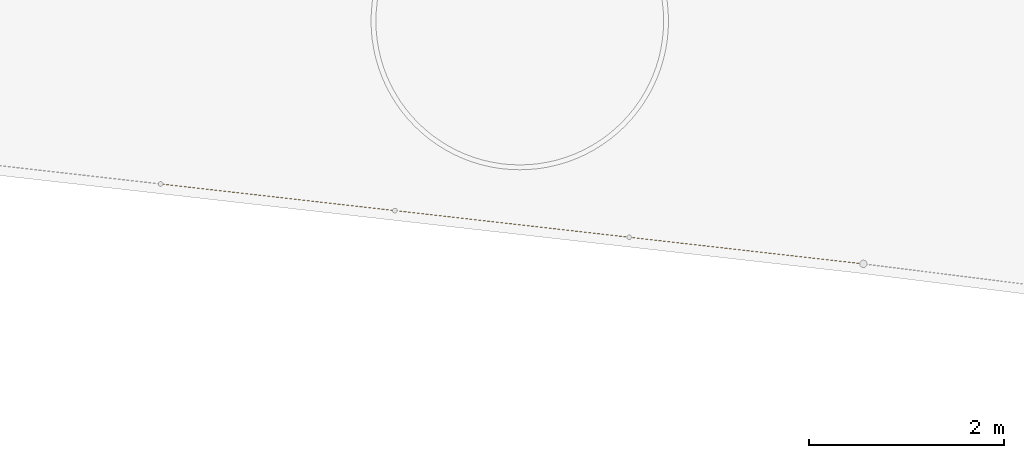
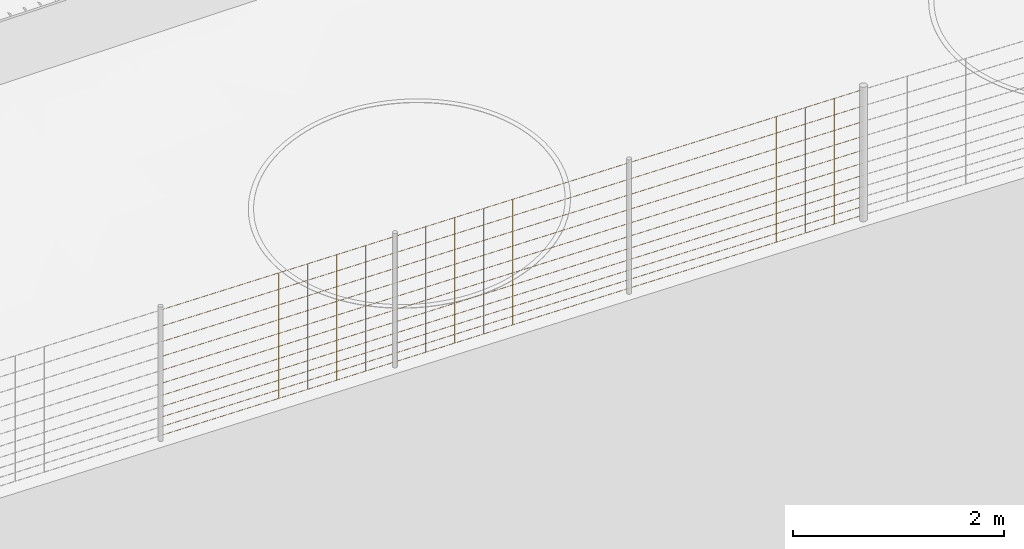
# Not in any storey, part 47 of 72: 3 railings.
"""IFC4 model written with IfcOpenShell, lengths in metres."""

from ifc_helpers import new_model, si_unit, direction, frame, origin_with_axes, place, context, subcontext, project, spatial, polygons, material, element, save


model = new_model("IFC4")

# Units and contexts
model_context = context("Model", 3, precision=1e-05, world=origin_with_axes(), true_north=direction((0.0, 1.0)))
body_context = subcontext(model_context, "Body", "Model", "MODEL_VIEW")
ifc_project = project(units=[si_unit("AREAUNIT", "SQUARE_METRE"), si_unit("VOLUMEUNIT", "CUBIC_METRE"), si_unit("LENGTHUNIT", "METRE")], contexts=[model_context])

# Site
site_placement = place(None, origin_with_axes())
site = spatial("IfcSite", under=ifc_project, at=site_placement, Name="Lares · Rua das Mercês · artigo 4771")

# Railings
ifc_material = material(Name="Aço galvanizado / Stahl verzinkt", Category="steel")
railing_1_placement = place(site_placement, frame((0.0, 0.0, 0.0), z_axis=(0.0, 0.0, 1.0), x_axis=(1.0, -1.03767253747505e-17, 0.0)))
element("IfcRailing", 1, at=railing_1_placement, inside=site, material=ifc_material, Name="Vedação · rede ovelheira 1.008", ObjectType="SHEEP_WIRE_FENCE", PredefinedType="USERDEFINED", context=body_context, shape_type="Tessellation", body=[
    polygons([(71.2952585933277, -5.02271708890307, 15.116837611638), (71.2951948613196, -5.02421950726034, 15.1153413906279), (71.2949196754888, -5.0256978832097, 15.116837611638), (71.2949834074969, -5.02419546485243, 15.118333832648), (68.893014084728, -4.74958065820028, 14.9448942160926), (68.8929503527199, -4.75108307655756, 14.9433979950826), (68.892675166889, -4.75256145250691, 14.9448942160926), (68.8927388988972, -4.75105903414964, 14.9463904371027), (71.2952585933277, -5.02271708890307, 15.216837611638), (71.2951948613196, -5.02421950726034, 15.2153413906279), (71.2949196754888, -5.0256978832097, 15.216837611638), (71.2949834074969, -5.02419546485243, 15.218333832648), (68.893014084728, -4.74958065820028, 15.0448942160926), (68.8929503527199, -4.75108307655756, 15.0433979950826), (68.892675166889, -4.75256145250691, 15.0448942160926), (68.8927388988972, -4.75105903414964, 15.0463904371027), (71.2952585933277, -5.02271708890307, 15.326837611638), (71.2951948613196, -5.02421950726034, 15.3253413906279), (71.2949196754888, -5.0256978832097, 15.326837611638), (71.2949834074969, -5.02419546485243, 15.328333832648), (68.893014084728, -4.74958065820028, 15.1548942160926), (68.8929503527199, -4.75108307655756, 15.1533979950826), (68.892675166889, -4.75256145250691, 15.1548942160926), (68.8927388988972, -4.75105903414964, 15.1563904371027), (71.2952585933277, -5.02271708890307, 15.446837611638), (71.2951948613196, -5.02421950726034, 15.4453413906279), (71.2949196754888, -5.0256978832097, 15.446837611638), (71.2949834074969, -5.02419546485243, 15.448333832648), (68.893014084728, -4.74958065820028, 15.2748942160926), (68.8929503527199, -4.75108307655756, 15.2733979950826), (68.892675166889, -4.75256145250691, 15.2748942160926), (68.8927388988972, -4.75105903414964, 15.2763904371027), (71.2952585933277, -5.02271708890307, 15.576837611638), (71.2951948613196, -5.02421950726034, 15.5753413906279), (71.2949196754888, -5.0256978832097, 15.576837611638), (71.2949834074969, -5.02419546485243, 15.578333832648), (68.893014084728, -4.74958065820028, 15.4048942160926), (68.8929503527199, -4.75108307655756, 15.4033979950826), (68.892675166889, -4.75256145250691, 15.4048942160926), (68.8927388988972, -4.75105903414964, 15.4063904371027), (71.2952585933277, -5.02271708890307, 15.716837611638), (71.2951948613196, -5.02421950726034, 15.7153413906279), (71.2949196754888, -5.0256978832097, 15.716837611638), (71.2949834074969, -5.02419546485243, 15.718333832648), (68.893014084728, -4.74958065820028, 15.5448942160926), (68.8929503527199, -4.75108307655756, 15.5433979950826), (68.892675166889, -4.75256145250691, 15.5448942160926), (68.8927388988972, -4.75105903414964, 15.5463904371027), (71.2952585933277, -5.02271708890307, 15.866837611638), (71.2951948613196, -5.02421950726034, 15.8653413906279), (71.2949196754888, -5.0256978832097, 15.866837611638), (71.2949834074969, -5.02419546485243, 15.868333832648), (68.893014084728, -4.74958065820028, 15.6948942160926), (68.8929503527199, -4.75108307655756, 15.6933979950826), (68.892675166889, -4.75256145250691, 15.6948942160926), (68.8927388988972, -4.75105903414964, 15.6963904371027), (71.2952585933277, -5.02271708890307, 16.026837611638), (71.2951948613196, -5.02421950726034, 16.0253413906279), (71.2949196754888, -5.0256978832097, 16.026837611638), (71.2949834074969, -5.02419546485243, 16.028333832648), (68.893014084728, -4.74958065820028, 15.8548942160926), (68.8929503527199, -4.75108307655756, 15.8533979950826), (68.892675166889, -4.75256145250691, 15.8548942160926), (68.8927388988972, -4.75105903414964, 15.8563904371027), (71.2952585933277, -5.02271708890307, 16.196837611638), (71.2951948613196, -5.02421950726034, 16.1953413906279), (71.2949196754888, -5.0256978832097, 16.196837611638), (71.2949834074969, -5.02419546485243, 16.198333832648), (68.893014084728, -4.74958065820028, 16.0248942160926), (68.8929503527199, -4.75108307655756, 16.0233979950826), (68.892675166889, -4.75256145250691, 16.0248942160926), (68.8927388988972, -4.75105903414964, 16.0263904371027), (71.2952585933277, -5.02271708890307, 16.376837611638), (71.2951948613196, -5.02421950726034, 16.3753413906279), (71.2949196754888, -5.0256978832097, 16.376837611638), (71.2949834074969, -5.02419546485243, 16.378333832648), (68.893014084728, -4.74958065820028, 16.2048942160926), (68.8929503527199, -4.75108307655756, 16.2033979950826), (68.892675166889, -4.75256145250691, 16.2048942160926), (68.8927388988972, -4.75105903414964, 16.2063904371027), (71.2952585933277, -5.02271708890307, 16.566837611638), (71.2951948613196, -5.02421950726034, 16.5653413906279), (71.2949196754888, -5.0256978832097, 16.566837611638), (71.2949834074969, -5.02419546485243, 16.568333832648), (68.893014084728, -4.74958065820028, 16.3948942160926), (68.8929503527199, -4.75108307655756, 16.3933979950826), (68.892675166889, -4.75256145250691, 16.3948942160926), (68.8927388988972, -4.75105903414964, 16.3963904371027), (70.9970097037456, -4.98881570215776, 15.0955022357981), (70.9955097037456, -4.99031570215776, 15.0955022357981), (70.9970097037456, -4.99181570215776, 15.0955022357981), (70.9985097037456, -4.99031570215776, 15.0955022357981), (70.9970097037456, -4.98881570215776, 16.5455022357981), (70.9955097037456, -4.99031570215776, 16.5455022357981), (70.9970097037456, -4.99181570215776, 16.5455022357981), (70.9985097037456, -4.99031570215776, 16.5455022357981), (70.698930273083, -4.95492391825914, 15.0741668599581), (70.697430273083, -4.95642391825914, 15.0741668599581), (70.698930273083, -4.95792391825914, 15.0741668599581), (70.700430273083, -4.95642391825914, 15.0741668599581), (70.698930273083, -4.95492391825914, 16.5241668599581), (70.697430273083, -4.95642391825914, 16.5241668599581), (70.698930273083, -4.95792391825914, 16.5241668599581), (70.700430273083, -4.95642391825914, 16.5241668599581), (70.4008508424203, -4.92103213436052, 15.0528314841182), (70.3993508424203, -4.92253213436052, 15.0528314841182), (70.4008508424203, -4.92403213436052, 15.0528314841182), (70.4023508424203, -4.92253213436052, 15.0528314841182), (70.4008508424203, -4.92103213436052, 16.5028314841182), (70.3993508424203, -4.92253213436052, 16.5028314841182), (70.4008508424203, -4.92403213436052, 16.5028314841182), (70.4023508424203, -4.92253213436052, 16.5028314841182), (70.1027714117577, -4.88714035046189, 15.0314961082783), (70.1012714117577, -4.88864035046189, 15.0314961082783), (70.1027714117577, -4.89014035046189, 15.0314961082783), (70.1042714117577, -4.88864035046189, 15.0314961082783), (70.1027714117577, -4.88714035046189, 16.4814961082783), (70.1012714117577, -4.88864035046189, 16.4814961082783), (70.1027714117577, -4.89014035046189, 16.4814961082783), (70.1042714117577, -4.88864035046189, 16.4814961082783), (69.804691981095, -4.85324856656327, 15.0101607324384), (69.803191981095, -4.85474856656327, 15.0101607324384), (69.804691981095, -4.85624856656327, 15.0101607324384), (69.806191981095, -4.85474856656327, 15.0101607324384), (69.804691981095, -4.85324856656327, 16.4601607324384), (69.803191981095, -4.85474856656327, 16.4601607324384), (69.804691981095, -4.85624856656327, 16.4601607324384), (69.806191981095, -4.85474856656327, 16.4601607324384), (69.5066125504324, -4.81935678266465, 14.9888253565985), (69.5051125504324, -4.82085678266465, 14.9888253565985), (69.5066125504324, -4.82235678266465, 14.9888253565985), (69.5081125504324, -4.82085678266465, 14.9888253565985), (69.5066125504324, -4.81935678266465, 16.4388253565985), (69.5051125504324, -4.82085678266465, 16.4388253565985), (69.5066125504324, -4.82235678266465, 16.4388253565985), (69.5081125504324, -4.82085678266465, 16.4388253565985), (69.2085331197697, -4.78546499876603, 14.9674899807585), (69.2070331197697, -4.78696499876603, 14.9674899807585), (69.2085331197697, -4.78846499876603, 14.9674899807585), (69.2100331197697, -4.78696499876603, 14.9674899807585), (69.2085331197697, -4.78546499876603, 16.4174899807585), (69.2070331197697, -4.78696499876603, 16.4174899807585), (69.2085331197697, -4.78846499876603, 16.4174899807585), (69.2100331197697, -4.78696499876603, 16.4174899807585)], [[[4, 3, 2, 1]], [[5, 6, 7, 8]], [[1, 2, 6, 5]], [[2, 3, 7, 6]], [[3, 4, 8, 7]], [[4, 1, 5, 8]], [[12, 11, 10, 9]], [[13, 14, 15, 16]], [[9, 10, 14, 13]], [[10, 11, 15, 14]], [[11, 12, 16, 15]], [[12, 9, 13, 16]], [[20, 19, 18, 17]], [[21, 22, 23, 24]], [[17, 18, 22, 21]], [[18, 19, 23, 22]], [[19, 20, 24, 23]], [[20, 17, 21, 24]], [[28, 27, 26, 25]], [[29, 30, 31, 32]], [[25, 26, 30, 29]], [[26, 27, 31, 30]], [[27, 28, 32, 31]], [[28, 25, 29, 32]], [[36, 35, 34, 33]], [[37, 38, 39, 40]], [[33, 34, 38, 37]], [[34, 35, 39, 38]], [[35, 36, 40, 39]], [[36, 33, 37, 40]], [[44, 43, 42, 41]], [[45, 46, 47, 48]], [[41, 42, 46, 45]], [[42, 43, 47, 46]], [[43, 44, 48, 47]], [[44, 41, 45, 48]], [[52, 51, 50, 49]], [[53, 54, 55, 56]], [[49, 50, 54, 53]], [[50, 51, 55, 54]], [[51, 52, 56, 55]], [[52, 49, 53, 56]], [[60, 59, 58, 57]], [[61, 62, 63, 64]], [[57, 58, 62, 61]], [[58, 59, 63, 62]], [[59, 60, 64, 63]], [[60, 57, 61, 64]], [[68, 67, 66, 65]], [[69, 70, 71, 72]], [[65, 66, 70, 69]], [[66, 67, 71, 70]], [[67, 68, 72, 71]], [[68, 65, 69, 72]], [[76, 75, 74, 73]], [[77, 78, 79, 80]], [[73, 74, 78, 77]], [[74, 75, 79, 78]], [[75, 76, 80, 79]], [[76, 73, 77, 80]], [[84, 83, 82, 81]], [[85, 86, 87, 88]], [[81, 82, 86, 85]], [[82, 83, 87, 86]], [[83, 84, 88, 87]], [[84, 81, 85, 88]], [[92, 91, 90, 89]], [[93, 94, 95, 96]], [[89, 90, 94, 93]], [[90, 91, 95, 94]], [[91, 92, 96, 95]], [[92, 89, 93, 96]], [[100, 99, 98, 97]], [[101, 102, 103, 104]], [[97, 98, 102, 101]], [[98, 99, 103, 102]], [[99, 100, 104, 103]], [[100, 97, 101, 104]], [[108, 107, 106, 105]], [[109, 110, 111, 112]], [[105, 106, 110, 109]], [[106, 107, 111, 110]], [[107, 108, 112, 111]], [[108, 105, 109, 112]], [[116, 115, 114, 113]], [[117, 118, 119, 120]], [[113, 114, 118, 117]], [[114, 115, 119, 118]], [[115, 116, 120, 119]], [[116, 113, 117, 120]], [[124, 123, 122, 121]], [[125, 126, 127, 128]], [[121, 122, 126, 125]], [[122, 123, 127, 126]], [[123, 124, 128, 127]], [[124, 121, 125, 128]], [[132, 131, 130, 129]], [[133, 134, 135, 136]], [[129, 130, 134, 133]], [[130, 131, 135, 134]], [[131, 132, 136, 135]], [[132, 129, 133, 136]], [[140, 139, 138, 137]], [[141, 142, 143, 144]], [[137, 138, 142, 141]], [[138, 139, 143, 142]], [[139, 140, 144, 143]], [[140, 137, 141, 144]]]),
])
railing_2_placement = place(site_placement, frame((0.0, 0.0, 0.0), z_axis=(0.0, 0.0, 1.0), x_axis=(1.0, -1.03767253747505e-17, 0.0)))
element("IfcRailing", 2, at=railing_2_placement, inside=site, material=ifc_material, Name="Vedação · rede ovelheira 1.009", ObjectType="SHEEP_WIRE_FENCE", PredefinedType="USERDEFINED", context=body_context, shape_type="Tessellation", body=[
    polygons([(68.893014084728, -4.74958065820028, 14.9448942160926), (68.8929525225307, -4.75108332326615, 14.9433981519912), (68.892675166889, -4.75256145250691, 14.9448942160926), (68.8927367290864, -4.75105878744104, 14.9463902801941), (66.4907695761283, -4.4764442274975, 14.7694036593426), (66.4907080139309, -4.47794689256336, 14.7679075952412), (66.4904306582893, -4.47942502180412, 14.7694036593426), (66.4904922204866, -4.47792235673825, 14.7708997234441), (68.893014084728, -4.74958065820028, 15.0448942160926), (68.8929525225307, -4.75108332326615, 15.0433981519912), (68.892675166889, -4.75256145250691, 15.0448942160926), (68.8927367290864, -4.75105878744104, 15.0463902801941), (66.4907695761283, -4.4764442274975, 14.8694036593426), (66.4907080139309, -4.47794689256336, 14.8679075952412), (66.4904306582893, -4.47942502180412, 14.8694036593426), (66.4904922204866, -4.47792235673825, 14.8708997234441), (68.893014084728, -4.74958065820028, 15.1548942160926), (68.8929525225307, -4.75108332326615, 15.1533981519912), (68.892675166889, -4.75256145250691, 15.1548942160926), (68.8927367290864, -4.75105878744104, 15.1563902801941), (66.4907695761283, -4.4764442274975, 14.9794036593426), (66.4907080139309, -4.47794689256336, 14.9779075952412), (66.4904306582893, -4.47942502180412, 14.9794036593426), (66.4904922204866, -4.47792235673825, 14.9808997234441), (68.893014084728, -4.74958065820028, 15.2748942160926), (68.8929525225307, -4.75108332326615, 15.2733981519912), (68.892675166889, -4.75256145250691, 15.2748942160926), (68.8927367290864, -4.75105878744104, 15.2763902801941), (66.4907695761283, -4.4764442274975, 15.0994036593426), (66.4907080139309, -4.47794689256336, 15.0979075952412), (66.4904306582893, -4.47942502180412, 15.0994036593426), (66.4904922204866, -4.47792235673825, 15.1008997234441), (68.893014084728, -4.74958065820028, 15.4048942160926), (68.8929525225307, -4.75108332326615, 15.4033981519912), (68.892675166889, -4.75256145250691, 15.4048942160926), (68.8927367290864, -4.75105878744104, 15.4063902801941), (66.4907695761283, -4.4764442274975, 15.2294036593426), (66.4907080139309, -4.47794689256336, 15.2279075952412), (66.4904306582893, -4.47942502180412, 15.2294036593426), (66.4904922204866, -4.47792235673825, 15.2308997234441), (68.893014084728, -4.74958065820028, 15.5448942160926), (68.8929525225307, -4.75108332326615, 15.5433981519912), (68.892675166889, -4.75256145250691, 15.5448942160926), (68.8927367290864, -4.75105878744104, 15.5463902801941), (66.4907695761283, -4.4764442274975, 15.3694036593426), (66.4907080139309, -4.47794689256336, 15.3679075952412), (66.4904306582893, -4.47942502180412, 15.3694036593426), (66.4904922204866, -4.47792235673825, 15.3708997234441), (68.893014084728, -4.74958065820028, 15.6948942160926), (68.8929525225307, -4.75108332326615, 15.6933981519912), (68.892675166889, -4.75256145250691, 15.6948942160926), (68.8927367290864, -4.75105878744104, 15.6963902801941), (66.4907695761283, -4.4764442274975, 15.5194036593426), (66.4907080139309, -4.47794689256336, 15.5179075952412), (66.4904306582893, -4.47942502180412, 15.5194036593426), (66.4904922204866, -4.47792235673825, 15.5208997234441), (68.893014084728, -4.74958065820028, 15.8548942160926), (68.8929525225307, -4.75108332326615, 15.8533981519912), (68.892675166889, -4.75256145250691, 15.8548942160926), (68.8927367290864, -4.75105878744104, 15.8563902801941), (66.4907695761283, -4.4764442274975, 15.6794036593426), (66.4907080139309, -4.47794689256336, 15.6779075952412), (66.4904306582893, -4.47942502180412, 15.6794036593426), (66.4904922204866, -4.47792235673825, 15.6808997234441), (68.893014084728, -4.74958065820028, 16.0248942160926), (68.8929525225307, -4.75108332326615, 16.0233981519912), (68.892675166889, -4.75256145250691, 16.0248942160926), (68.8927367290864, -4.75105878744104, 16.0263902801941), (66.4907695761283, -4.4764442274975, 15.8494036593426), (66.4907080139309, -4.47794689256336, 15.8479075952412), (66.4904306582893, -4.47942502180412, 15.8494036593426), (66.4904922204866, -4.47792235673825, 15.8508997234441), (68.893014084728, -4.74958065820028, 16.2048942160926), (68.8929525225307, -4.75108332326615, 16.2033981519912), (68.892675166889, -4.75256145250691, 16.2048942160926), (68.8927367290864, -4.75105878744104, 16.2063902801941), (66.4907695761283, -4.4764442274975, 16.0294036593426), (66.4907080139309, -4.47794689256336, 16.0279075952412), (66.4904306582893, -4.47942502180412, 16.0294036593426), (66.4904922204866, -4.47792235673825, 16.0308997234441), (68.893014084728, -4.74958065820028, 16.3948942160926), (68.8929525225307, -4.75108332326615, 16.3933981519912), (68.892675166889, -4.75256145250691, 16.3948942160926), (68.8927367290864, -4.75105878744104, 16.3963902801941), (66.4907695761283, -4.4764442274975, 16.2194036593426), (66.4907080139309, -4.47794689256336, 16.2179075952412), (66.4904306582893, -4.47942502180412, 16.2194036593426), (66.4904922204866, -4.47792235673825, 16.2208997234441), (68.5947651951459, -4.71567927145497, 14.9231186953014), (68.5932651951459, -4.71717927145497, 14.9231186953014), (68.5947651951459, -4.71867927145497, 14.9231186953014), (68.5962651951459, -4.71717927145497, 14.9231186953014), (68.5947651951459, -4.71567927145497, 16.3731186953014), (68.5932651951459, -4.71717927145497, 16.3731186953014), (68.5947651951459, -4.71867927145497, 16.3731186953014), (68.5962651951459, -4.71717927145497, 16.3731186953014), (68.2966857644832, -4.68178748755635, 14.9013431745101), (68.2951857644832, -4.68328748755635, 14.9013431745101), (68.2966857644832, -4.68478748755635, 14.9013431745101), (68.2981857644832, -4.68328748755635, 14.9013431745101), (68.2966857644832, -4.68178748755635, 16.3513431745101), (68.2951857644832, -4.68328748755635, 16.3513431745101), (68.2966857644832, -4.68478748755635, 16.3513431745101), (68.2981857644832, -4.68328748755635, 16.3513431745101), (67.9986063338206, -4.64789570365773, 14.8795676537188), (67.9971063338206, -4.64939570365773, 14.8795676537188), (67.9986063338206, -4.65089570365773, 14.8795676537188), (68.0001063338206, -4.64939570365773, 14.8795676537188), (67.9986063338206, -4.64789570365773, 16.3295676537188), (67.9971063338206, -4.64939570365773, 16.3295676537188), (67.9986063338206, -4.65089570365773, 16.3295676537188), (68.0001063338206, -4.64939570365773, 16.3295676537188), (67.7005269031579, -4.61400391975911, 14.8577921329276), (67.6990269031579, -4.61550391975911, 14.8577921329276), (67.7005269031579, -4.61700391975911, 14.8577921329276), (67.7020269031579, -4.61550391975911, 14.8577921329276), (67.7005269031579, -4.61400391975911, 16.3077921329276), (67.6990269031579, -4.61550391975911, 16.3077921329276), (67.7005269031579, -4.61700391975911, 16.3077921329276), (67.7020269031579, -4.61550391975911, 16.3077921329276), (67.4024474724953, -4.58011213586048, 14.8360166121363), (67.4009474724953, -4.58161213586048, 14.8360166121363), (67.4024474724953, -4.58311213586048, 14.8360166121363), (67.4039474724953, -4.58161213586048, 14.8360166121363), (67.4024474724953, -4.58011213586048, 16.2860166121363), (67.4009474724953, -4.58161213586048, 16.2860166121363), (67.4024474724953, -4.58311213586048, 16.2860166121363), (67.4039474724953, -4.58161213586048, 16.2860166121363), (67.1043680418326, -4.54622035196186, 14.8142410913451), (67.1028680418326, -4.54772035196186, 14.8142410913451), (67.1043680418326, -4.54922035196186, 14.8142410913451), (67.1058680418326, -4.54772035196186, 14.8142410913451), (67.1043680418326, -4.54622035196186, 16.2642410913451), (67.1028680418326, -4.54772035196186, 16.2642410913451), (67.1043680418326, -4.54922035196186, 16.2642410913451), (67.1058680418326, -4.54772035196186, 16.2642410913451), (66.80628861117, -4.51232856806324, 14.7924655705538), (66.80478861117, -4.51382856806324, 14.7924655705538), (66.80628861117, -4.51532856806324, 14.7924655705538), (66.80778861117, -4.51382856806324, 14.7924655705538), (66.80628861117, -4.51232856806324, 16.2424655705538), (66.80478861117, -4.51382856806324, 16.2424655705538), (66.80628861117, -4.51532856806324, 16.2424655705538), (66.80778861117, -4.51382856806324, 16.2424655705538)], [[[4, 3, 2, 1]], [[5, 6, 7, 8]], [[1, 2, 6, 5]], [[2, 3, 7, 6]], [[3, 4, 8, 7]], [[4, 1, 5, 8]], [[12, 11, 10, 9]], [[13, 14, 15, 16]], [[9, 10, 14, 13]], [[10, 11, 15, 14]], [[11, 12, 16, 15]], [[12, 9, 13, 16]], [[20, 19, 18, 17]], [[21, 22, 23, 24]], [[17, 18, 22, 21]], [[18, 19, 23, 22]], [[19, 20, 24, 23]], [[20, 17, 21, 24]], [[28, 27, 26, 25]], [[29, 30, 31, 32]], [[25, 26, 30, 29]], [[26, 27, 31, 30]], [[27, 28, 32, 31]], [[28, 25, 29, 32]], [[36, 35, 34, 33]], [[37, 38, 39, 40]], [[33, 34, 38, 37]], [[34, 35, 39, 38]], [[35, 36, 40, 39]], [[36, 33, 37, 40]], [[44, 43, 42, 41]], [[45, 46, 47, 48]], [[41, 42, 46, 45]], [[42, 43, 47, 46]], [[43, 44, 48, 47]], [[44, 41, 45, 48]], [[52, 51, 50, 49]], [[53, 54, 55, 56]], [[49, 50, 54, 53]], [[50, 51, 55, 54]], [[51, 52, 56, 55]], [[52, 49, 53, 56]], [[60, 59, 58, 57]], [[61, 62, 63, 64]], [[57, 58, 62, 61]], [[58, 59, 63, 62]], [[59, 60, 64, 63]], [[60, 57, 61, 64]], [[68, 67, 66, 65]], [[69, 70, 71, 72]], [[65, 66, 70, 69]], [[66, 67, 71, 70]], [[67, 68, 72, 71]], [[68, 65, 69, 72]], [[76, 75, 74, 73]], [[77, 78, 79, 80]], [[73, 74, 78, 77]], [[74, 75, 79, 78]], [[75, 76, 80, 79]], [[76, 73, 77, 80]], [[84, 83, 82, 81]], [[85, 86, 87, 88]], [[81, 82, 86, 85]], [[82, 83, 87, 86]], [[83, 84, 88, 87]], [[84, 81, 85, 88]], [[92, 91, 90, 89]], [[93, 94, 95, 96]], [[89, 90, 94, 93]], [[90, 91, 95, 94]], [[91, 92, 96, 95]], [[92, 89, 93, 96]], [[100, 99, 98, 97]], [[101, 102, 103, 104]], [[97, 98, 102, 101]], [[98, 99, 103, 102]], [[99, 100, 104, 103]], [[100, 97, 101, 104]], [[108, 107, 106, 105]], [[109, 110, 111, 112]], [[105, 106, 110, 109]], [[106, 107, 111, 110]], [[107, 108, 112, 111]], [[108, 105, 109, 112]], [[116, 115, 114, 113]], [[117, 118, 119, 120]], [[113, 114, 118, 117]], [[114, 115, 119, 118]], [[115, 116, 120, 119]], [[116, 113, 117, 120]], [[124, 123, 122, 121]], [[125, 126, 127, 128]], [[121, 122, 126, 125]], [[122, 123, 127, 126]], [[123, 124, 128, 127]], [[124, 121, 125, 128]], [[132, 131, 130, 129]], [[133, 134, 135, 136]], [[129, 130, 134, 133]], [[130, 131, 135, 134]], [[131, 132, 136, 135]], [[132, 129, 133, 136]], [[140, 139, 138, 137]], [[141, 142, 143, 144]], [[137, 138, 142, 141]], [[138, 139, 143, 142]], [[139, 140, 144, 143]], [[140, 137, 141, 144]]]),
])
railing_3_placement = place(site_placement, frame((0.0, 0.0, 0.0), z_axis=(0.0, 0.0, 1.0), x_axis=(1.0, -1.03767253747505e-17, 0.0)))
element("IfcRailing", 3, at=railing_3_placement, inside=site, material=ifc_material, Name="Vedação · rede ovelheira 1.010", ObjectType="SHEEP_WIRE_FENCE", PredefinedType="USERDEFINED", context=body_context, shape_type="Tessellation", body=[
    polygons([(66.4907695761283, -4.4764442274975, 14.7694036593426), (66.4907080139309, -4.47794689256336, 14.7679075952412), (66.4904306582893, -4.47942502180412, 14.7694036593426), (66.4904922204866, -4.47792235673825, 14.7708997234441), (64.0885250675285, -4.20330779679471, 14.5939131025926), (64.0884635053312, -4.20481046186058, 14.5924170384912), (64.0881861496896, -4.20628859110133, 14.5939131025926), (64.0882477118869, -4.20478592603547, 14.5954091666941), (66.4907695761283, -4.4764442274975, 14.8694036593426), (66.4907080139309, -4.47794689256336, 14.8679075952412), (66.4904306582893, -4.47942502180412, 14.8694036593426), (66.4904922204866, -4.47792235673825, 14.8708997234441), (64.0885250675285, -4.20330779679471, 14.6939131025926), (64.0884635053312, -4.20481046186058, 14.6924170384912), (64.0881861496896, -4.20628859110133, 14.6939131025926), (64.0882477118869, -4.20478592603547, 14.6954091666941), (66.4907695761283, -4.4764442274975, 14.9794036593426), (66.4907080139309, -4.47794689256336, 14.9779075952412), (66.4904306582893, -4.47942502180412, 14.9794036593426), (66.4904922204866, -4.47792235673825, 14.9808997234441), (64.0885250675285, -4.20330779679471, 14.8039131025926), (64.0884635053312, -4.20481046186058, 14.8024170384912), (64.0881861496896, -4.20628859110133, 14.8039131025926), (64.0882477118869, -4.20478592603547, 14.8054091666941), (66.4907695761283, -4.4764442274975, 15.0994036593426), (66.4907080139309, -4.47794689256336, 15.0979075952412), (66.4904306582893, -4.47942502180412, 15.0994036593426), (66.4904922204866, -4.47792235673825, 15.1008997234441), (64.0885250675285, -4.20330779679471, 14.9239131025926), (64.0884635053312, -4.20481046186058, 14.9224170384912), (64.0881861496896, -4.20628859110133, 14.9239131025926), (64.0882477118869, -4.20478592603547, 14.9254091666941), (66.4907695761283, -4.4764442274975, 15.2294036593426), (66.4907080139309, -4.47794689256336, 15.2279075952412), (66.4904306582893, -4.47942502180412, 15.2294036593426), (66.4904922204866, -4.47792235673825, 15.2308997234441), (64.0885250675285, -4.20330779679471, 15.0539131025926), (64.0884635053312, -4.20481046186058, 15.0524170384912), (64.0881861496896, -4.20628859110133, 15.0539131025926), (64.0882477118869, -4.20478592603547, 15.0554091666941), (66.4907695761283, -4.4764442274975, 15.3694036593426), (66.4907080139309, -4.47794689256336, 15.3679075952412), (66.4904306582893, -4.47942502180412, 15.3694036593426), (66.4904922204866, -4.47792235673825, 15.3708997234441), (64.0885250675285, -4.20330779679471, 15.1939131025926), (64.0884635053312, -4.20481046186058, 15.1924170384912), (64.0881861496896, -4.20628859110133, 15.1939131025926), (64.0882477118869, -4.20478592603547, 15.1954091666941), (66.4907695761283, -4.4764442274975, 15.5194036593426), (66.4907080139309, -4.47794689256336, 15.5179075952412), (66.4904306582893, -4.47942502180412, 15.5194036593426), (66.4904922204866, -4.47792235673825, 15.5208997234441), (64.0885250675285, -4.20330779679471, 15.3439131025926), (64.0884635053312, -4.20481046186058, 15.3424170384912), (64.0881861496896, -4.20628859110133, 15.3439131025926), (64.0882477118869, -4.20478592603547, 15.3454091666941), (66.4907695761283, -4.4764442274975, 15.6794036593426), (66.4907080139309, -4.47794689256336, 15.6779075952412), (66.4904306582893, -4.47942502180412, 15.6794036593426), (66.4904922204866, -4.47792235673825, 15.6808997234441), (64.0885250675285, -4.20330779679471, 15.5039131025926), (64.0884635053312, -4.20481046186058, 15.5024170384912), (64.0881861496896, -4.20628859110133, 15.5039131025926), (64.0882477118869, -4.20478592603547, 15.5054091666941), (66.4907695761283, -4.4764442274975, 15.8494036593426), (66.4907080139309, -4.47794689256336, 15.8479075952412), (66.4904306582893, -4.47942502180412, 15.8494036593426), (66.4904922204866, -4.47792235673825, 15.8508997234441), (64.0885250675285, -4.20330779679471, 15.6739131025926), (64.0884635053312, -4.20481046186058, 15.6724170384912), (64.0881861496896, -4.20628859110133, 15.6739131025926), (64.0882477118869, -4.20478592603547, 15.6754091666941), (66.4907695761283, -4.4764442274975, 16.0294036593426), (66.4907080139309, -4.47794689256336, 16.0279075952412), (66.4904306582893, -4.47942502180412, 16.0294036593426), (66.4904922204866, -4.47792235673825, 16.0308997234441), (64.0885250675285, -4.20330779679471, 15.8539131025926), (64.0884635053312, -4.20481046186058, 15.8524170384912), (64.0881861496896, -4.20628859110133, 15.8539131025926), (64.0882477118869, -4.20478592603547, 15.8554091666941), (66.4907695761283, -4.4764442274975, 16.2194036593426), (66.4907080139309, -4.47794689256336, 16.2179075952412), (66.4904306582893, -4.47942502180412, 16.2194036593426), (66.4904922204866, -4.47792235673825, 16.2208997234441), (64.0885250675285, -4.20330779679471, 16.0439131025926), (64.0884635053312, -4.20481046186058, 16.0424170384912), (64.0881861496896, -4.20628859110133, 16.0439131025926), (64.0882477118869, -4.20478592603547, 16.0454091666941), (66.1925206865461, -4.44254284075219, 14.7476281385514), (66.1910206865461, -4.44404284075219, 14.7476281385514), (66.1925206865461, -4.44554284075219, 14.7476281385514), (66.1940206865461, -4.44404284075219, 14.7476281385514), (66.1925206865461, -4.44254284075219, 16.1976281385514), (66.1910206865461, -4.44404284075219, 16.1976281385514), (66.1925206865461, -4.44554284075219, 16.1976281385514), (66.1940206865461, -4.44404284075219, 16.1976281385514), (65.8944412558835, -4.40865105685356, 14.7258526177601), (65.8929412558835, -4.41015105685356, 14.7258526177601), (65.8944412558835, -4.41165105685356, 14.7258526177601), (65.8959412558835, -4.41015105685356, 14.7258526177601), (65.8944412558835, -4.40865105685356, 16.1758526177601), (65.8929412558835, -4.41015105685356, 16.1758526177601), (65.8944412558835, -4.41165105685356, 16.1758526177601), (65.8959412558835, -4.41015105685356, 16.1758526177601), (65.5963618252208, -4.37475927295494, 14.7040770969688), (65.5948618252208, -4.37625927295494, 14.7040770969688), (65.5963618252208, -4.37775927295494, 14.7040770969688), (65.5978618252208, -4.37625927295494, 14.7040770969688), (65.5963618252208, -4.37475927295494, 16.1540770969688), (65.5948618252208, -4.37625927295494, 16.1540770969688), (65.5963618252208, -4.37775927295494, 16.1540770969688), (65.5978618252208, -4.37625927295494, 16.1540770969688), (65.2982823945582, -4.34086748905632, 14.6823015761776), (65.2967823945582, -4.34236748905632, 14.6823015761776), (65.2982823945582, -4.34386748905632, 14.6823015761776), (65.2997823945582, -4.34236748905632, 14.6823015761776), (65.2982823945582, -4.34086748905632, 16.1323015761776), (65.2967823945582, -4.34236748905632, 16.1323015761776), (65.2982823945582, -4.34386748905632, 16.1323015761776), (65.2997823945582, -4.34236748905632, 16.1323015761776), (65.0002029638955, -4.3069757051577, 14.6605260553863), (64.9987029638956, -4.3084757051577, 14.6605260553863), (65.0002029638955, -4.3099757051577, 14.6605260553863), (65.0017029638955, -4.3084757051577, 14.6605260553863), (65.0002029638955, -4.3069757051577, 16.1105260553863), (64.9987029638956, -4.3084757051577, 16.1105260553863), (65.0002029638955, -4.3099757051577, 16.1105260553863), (65.0017029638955, -4.3084757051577, 16.1105260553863), (64.7021235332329, -4.27308392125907, 14.638750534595), (64.7006235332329, -4.27458392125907, 14.638750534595), (64.7021235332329, -4.27608392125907, 14.638750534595), (64.7036235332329, -4.27458392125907, 14.638750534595), (64.7021235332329, -4.27308392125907, 16.088750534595), (64.7006235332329, -4.27458392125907, 16.088750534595), (64.7021235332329, -4.27608392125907, 16.088750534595), (64.7036235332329, -4.27458392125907, 16.088750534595), (64.4040441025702, -4.23919213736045, 14.6169750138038), (64.4025441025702, -4.24069213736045, 14.6169750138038), (64.4040441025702, -4.24219213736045, 14.6169750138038), (64.4055441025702, -4.24069213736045, 14.6169750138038), (64.4040441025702, -4.23919213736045, 16.0669750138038), (64.4025441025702, -4.24069213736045, 16.0669750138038), (64.4040441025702, -4.24219213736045, 16.0669750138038), (64.4055441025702, -4.24069213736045, 16.0669750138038)], [[[4, 3, 2, 1]], [[5, 6, 7, 8]], [[1, 2, 6, 5]], [[2, 3, 7, 6]], [[3, 4, 8, 7]], [[4, 1, 5, 8]], [[12, 11, 10, 9]], [[13, 14, 15, 16]], [[9, 10, 14, 13]], [[10, 11, 15, 14]], [[11, 12, 16, 15]], [[12, 9, 13, 16]], [[20, 19, 18, 17]], [[21, 22, 23, 24]], [[17, 18, 22, 21]], [[18, 19, 23, 22]], [[19, 20, 24, 23]], [[20, 17, 21, 24]], [[28, 27, 26, 25]], [[29, 30, 31, 32]], [[25, 26, 30, 29]], [[26, 27, 31, 30]], [[27, 28, 32, 31]], [[28, 25, 29, 32]], [[36, 35, 34, 33]], [[37, 38, 39, 40]], [[33, 34, 38, 37]], [[34, 35, 39, 38]], [[35, 36, 40, 39]], [[36, 33, 37, 40]], [[44, 43, 42, 41]], [[45, 46, 47, 48]], [[41, 42, 46, 45]], [[42, 43, 47, 46]], [[43, 44, 48, 47]], [[44, 41, 45, 48]], [[52, 51, 50, 49]], [[53, 54, 55, 56]], [[49, 50, 54, 53]], [[50, 51, 55, 54]], [[51, 52, 56, 55]], [[52, 49, 53, 56]], [[60, 59, 58, 57]], [[61, 62, 63, 64]], [[57, 58, 62, 61]], [[58, 59, 63, 62]], [[59, 60, 64, 63]], [[60, 57, 61, 64]], [[68, 67, 66, 65]], [[69, 70, 71, 72]], [[65, 66, 70, 69]], [[66, 67, 71, 70]], [[67, 68, 72, 71]], [[68, 65, 69, 72]], [[76, 75, 74, 73]], [[77, 78, 79, 80]], [[73, 74, 78, 77]], [[74, 75, 79, 78]], [[75, 76, 80, 79]], [[76, 73, 77, 80]], [[84, 83, 82, 81]], [[85, 86, 87, 88]], [[81, 82, 86, 85]], [[82, 83, 87, 86]], [[83, 84, 88, 87]], [[84, 81, 85, 88]], [[92, 91, 90, 89]], [[93, 94, 95, 96]], [[89, 90, 94, 93]], [[90, 91, 95, 94]], [[91, 92, 96, 95]], [[92, 89, 93, 96]], [[100, 99, 98, 97]], [[101, 102, 103, 104]], [[97, 98, 102, 101]], [[98, 99, 103, 102]], [[99, 100, 104, 103]], [[100, 97, 101, 104]], [[108, 107, 106, 105]], [[109, 110, 111, 112]], [[105, 106, 110, 109]], [[106, 107, 111, 110]], [[107, 108, 112, 111]], [[108, 105, 109, 112]], [[116, 115, 114, 113]], [[117, 118, 119, 120]], [[113, 114, 118, 117]], [[114, 115, 119, 118]], [[115, 116, 120, 119]], [[116, 113, 117, 120]], [[124, 123, 122, 121]], [[125, 126, 127, 128]], [[121, 122, 126, 125]], [[122, 123, 127, 126]], [[123, 124, 128, 127]], [[124, 121, 125, 128]], [[132, 131, 130, 129]], [[133, 134, 135, 136]], [[129, 130, 134, 133]], [[130, 131, 135, 134]], [[131, 132, 136, 135]], [[132, 129, 133, 136]], [[140, 139, 138, 137]], [[141, 142, 143, 144]], [[137, 138, 142, 141]], [[138, 139, 143, 142]], [[139, 140, 144, 143]], [[140, 137, 141, 144]]]),
])

save(model, "model.ifc")
